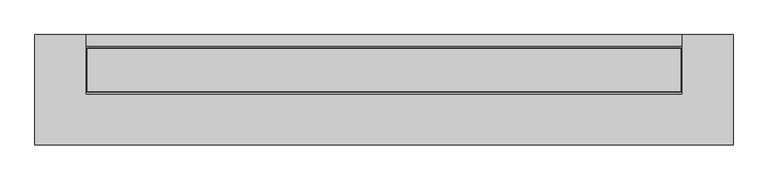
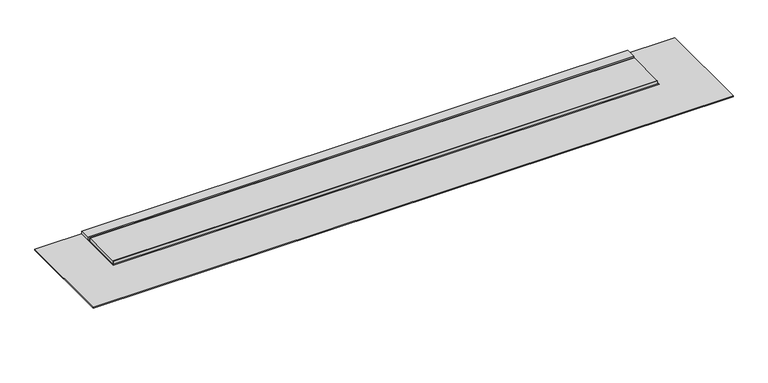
"""IFC4 building model written with IfcOpenShell, lengths in millimetres: sanitary terminal geometry, NLRS_PF_52_UN_Multi TAF Wall in_uitloop_Easydrain : Multi TAF Wall onderuitloop 50mm, zij-ingang 40mm."""

from ifc_helpers import new_model, si_unit, frame, origin, place, context, project, spatial, polyline, circle_curve, outline, extrude, faceted_brep, source, transform, mapped, element, save
from ifc_brep_helpers import plane_surface, cylinder_surface, revolved_surface, advanced_brep


def sanitary_terminal_4a5be464(model_context):
    return source(origin(), model_context, "Body", "SolidModel", [
        advanced_brep(
        [(895.5, 0.0, -67.0), (889.5, 0.0, -67.0), (892.5, 0.0, -67.0), (895.5, 0.0, -89.5), (889.5, 0.0, -89.5), (907.5, 0.0, -97.0), (877.5, 0.0, -97.0), (892.5, 0.0, -97.0)],
        [
            (0, 1, circle_curve(frame((892.5, 0.0, -67.0), z_axis=(0.0, 0.0, 1.0), x_axis=(-1.0, 0.0, 0.0)), 3.0)),
            (1, 2),
            (2, 0),
            (1, 0, circle_curve(frame((892.5, 0.0, -67.0), z_axis=(0.0, 0.0, 1.0), x_axis=(-1.0, 0.0, 0.0)), 3.0)),
            (3, 4, circle_curve(frame((892.5, 0.0, -89.5), z_axis=(0.0, 0.0, 1.0), x_axis=(-1.0, 0.0, 0.0)), 3.0)),
            (4, 1),
            (0, 3),
            (4, 3, circle_curve(frame((892.5, 0.0, -89.5), z_axis=(0.0, 0.0, 1.0), x_axis=(-1.0, 0.0, 0.0)), 3.0)),
            (5, 6, circle_curve(frame((892.5, 0.0, -97.0), z_axis=(0.0, 0.0, 1.0), x_axis=(-1.0, 0.0, 0.0)), 15.0)),
            (6, 4),
            (3, 5),
            (6, 5, circle_curve(frame((892.5, 0.0, -97.0), z_axis=(0.0, 0.0, 1.0), x_axis=(-1.0, 0.0, 0.0)), 15.0)),
            (7, 6),
            (5, 7),
        ],
        [
            plane_surface(frame((892.5, 0.0, -67.0), z_axis=(0.0, 0.0, 1.0), x_axis=(-1.0, 0.0, 0.0))),
            cylinder_surface(frame((892.5, 0.0, -105.1782032), z_axis=(0.0, 0.0, -1.0), x_axis=(-1.0, 0.0, 0.0)), 3.0),
            revolved_surface(polyline([(889.5, 0.0, -89.5), (877.5, 0.0, -97.0)]), (892.5, 0.0, -105.1782032), (0.0, 0.0, -1.0)),
            plane_surface(frame((892.5, 0.0, -97.0), z_axis=(0.0, 0.0, -1.0), x_axis=(-1.0, 0.0, 0.0))),
        ],
        [
            (0, [[1, 2, 3]]),
            (0, [[4, -3, -2]]),
            (1, [[5, 6, -1, 7]]),
            (1, [[8, -7, -4, -6]]),
            (2, [[9, 10, -5, 11]]),
            (2, [[12, -11, -8, -10]]),
            (3, [[13, -9, 14]]),
            (3, [[-14, -12, -13]]),
        ],
    ),
        faceted_brep([(882.5, 10.0, -67.0), (902.5, 10.0, -67.0), (902.5, -10.0, -67.0), (882.5, -10.0, -67.0), (877.5, 15.0, -27.0), (877.5, -15.0, -27.0), (907.5, -15.0, -27.0), (907.5, 15.0, -27.0)], [[[0, 1, 2, 3]], [[4, 5, 6, 7]], [[5, 4, 0, 3]], [[6, 5, 3, 2]], [[7, 6, 2, 1]], [[4, 7, 1, 0]]]),
        advanced_brep(
        [(-189.5, 0.0, -67.0), (-195.5, 0.0, -67.0), (-192.5, 0.0, -67.0), (-189.5, 0.0, -89.5), (-195.5, 0.0, -89.5), (-177.5, 0.0, -97.0), (-207.5, 0.0, -97.0), (-192.5, 0.0, -97.0)],
        [
            (0, 1, circle_curve(frame((-192.5, 0.0, -67.0), z_axis=(0.0, 0.0, 1.0), x_axis=(-1.0, 0.0, 0.0)), 3.0)),
            (1, 2),
            (2, 0),
            (1, 0, circle_curve(frame((-192.5, 0.0, -67.0), z_axis=(0.0, 0.0, 1.0), x_axis=(-1.0, 0.0, 0.0)), 3.0)),
            (3, 4, circle_curve(frame((-192.5, 0.0, -89.5), z_axis=(0.0, 0.0, 1.0), x_axis=(-1.0, 0.0, 0.0)), 3.0)),
            (4, 1),
            (0, 3),
            (4, 3, circle_curve(frame((-192.5, 0.0, -89.5), z_axis=(0.0, 0.0, 1.0), x_axis=(-1.0, 0.0, 0.0)), 3.0)),
            (5, 6, circle_curve(frame((-192.5, 0.0, -97.0), z_axis=(0.0, 0.0, 1.0), x_axis=(-1.0, 0.0, 0.0)), 15.0)),
            (6, 4),
            (3, 5),
            (6, 5, circle_curve(frame((-192.5, 0.0, -97.0), z_axis=(0.0, 0.0, 1.0), x_axis=(-1.0, 0.0, 0.0)), 15.0)),
            (7, 6),
            (5, 7),
        ],
        [
            plane_surface(frame((-192.5, 0.0, -67.0), z_axis=(0.0, 0.0, 1.0), x_axis=(-1.0, 0.0, 0.0))),
            cylinder_surface(frame((-192.5, 0.0, -105.1782032), z_axis=(0.0, 0.0, -1.0), x_axis=(-1.0, 0.0, 0.0)), 3.0),
            revolved_surface(polyline([(-195.5, 0.0, -89.5), (-207.5, 0.0, -97.0)]), (-192.5, 0.0, -105.1782032), (0.0, 0.0, -1.0)),
            plane_surface(frame((-192.5, 0.0, -97.0), z_axis=(0.0, 0.0, -1.0), x_axis=(-1.0, 0.0, 0.0))),
        ],
        [
            (0, [[1, 2, 3]]),
            (0, [[4, -3, -2]]),
            (1, [[5, 6, -1, 7]]),
            (1, [[8, -7, -4, -6]]),
            (2, [[9, 10, -5, 11]]),
            (2, [[12, -11, -8, -10]]),
            (3, [[13, -9, 14]]),
            (3, [[-14, -12, -13]]),
        ],
    ),
        faceted_brep([(-202.5, 10.0, -67.0), (-182.5, 10.0, -67.0), (-182.5, -10.0, -67.0), (-202.5, -10.0, -67.0), (-207.5, 15.0, -27.0), (-207.5, -15.0, -27.0), (-177.5, -15.0, -27.0), (-177.5, 15.0, -27.0)], [[[0, 1, 2, 3]], [[4, 5, 6, 7]], [[5, 4, 0, 3]], [[6, 5, 3, 2]], [[7, 6, 2, 1]], [[4, 7, 1, 0]]]),
        extrude(outline(polyline([(930.5, 42.0), (930.5, -42.0), (-230.5, -42.0), (-230.5, 42.0), (930.5, 42.0)])), frame((0.0, 0.0, -7.0), z_axis=(0.0, 0.0, 1.0), x_axis=(1.0, 0.0, 0.0)), (0.0, 0.0, 1.0), 7.0),
        extrude(outline(polyline([(930.5, 43.0), (930.5, 42.0), (-230.5, 42.0), (-230.5, 43.0), (930.5, 43.0)])), frame((0.0, 0.0, -7.0), z_axis=(0.0, 0.0, 1.0), x_axis=(1.0, 0.0, 0.0)), (0.0, 0.0, 1.0), 7.0),
        extrude(outline(polyline([(930.5, -43.0), (-230.5, -43.0), (-230.5, -42.0), (930.5, -42.0), (930.5, -43.0)])), frame((0.0, 0.0, -7.0), z_axis=(0.0, 0.0, 1.0), x_axis=(1.0, 0.0, 0.0)), (0.0, 0.0, 1.0), 7.0),
        extrude(outline(polyline([(932.5, 69.0), (932.5, 47.0), (-232.5, 47.0), (-232.5, 69.0), (932.5, 69.0)])), frame((0.0, 0.0, -7.0), z_axis=(0.0, 0.0, 1.0), x_axis=(1.0, 0.0, 0.0)), (0.0, 0.0, 1.0), 7.0),
        extrude(outline(polyline([(1032.5, 69.0), (1032.5, -147.0), (-332.5, -147.0), (-332.5, 69.0), (1032.5, 69.0)]), holes=[polyline([(932.5, 47.0), (-232.5, 47.0), (-232.5, -47.0), (932.5, -47.0), (932.5, 47.0)])]), frame((0.0, 0.0, -8.0), z_axis=(0.0, 0.0, 1.0), x_axis=(1.0, 0.0, 0.0)), (0.0, 0.0, 1.0), 2.0),
        faceted_brep([(932.5, 47.0, -27.0), (-232.5, 47.0, -27.0), (-232.5, 47.0, -9.0), (932.5, 47.0, -9.0), (-232.5, -47.0, -27.0), (932.5, -47.0, -27.0), (932.5, -47.0, -9.0), (-232.5, -47.0, -9.0), (950.0, 64.5, -7.0), (-250.0, 64.5, -7.0), (-250.0, -81.5, -7.0), (950.0, -81.5, -7.0), (950.0, 64.5, -9.0), (950.0, -81.5, -9.0), (-250.0, -81.5, -9.0), (-250.0, 64.5, -9.0)], [[[0, 1, 2, 3]], [[4, 5, 6, 7]], [[1, 0, 5, 4]], [[5, 0, 3, 6]], [[8, 9, 10, 11]], [[1, 4, 7, 2]], [[12, 13, 14, 15], [3, 2, 7, 6]], [[9, 8, 12, 15]], [[10, 9, 15, 14]], [[11, 10, 14, 13]], [[8, 11, 13, 12]]]),
    ])


if __name__ == "__main__":
    model = new_model("IFC4")
    model_context = context("Model", 3, world=origin())
    ifc_project = project(units=[si_unit("LENGTHUNIT", "METRE", prefix="MILLI")], contexts=[model_context])
    site = spatial("IfcSite", under=ifc_project)
    building = spatial("IfcBuilding", under=site)
    placement = place(None, origin())
    sanitary_terminal_shape = sanitary_terminal_4a5be464(model_context)
    element("IfcSanitaryTerminal", 1, ObjectType="NLRS_PF_52_UN_Multi TAF Wall in_uitloop_Easydrain : Multi TAF Wall onderuitloop 50mm, zij-ingang 40mm", at=placement, inside=building, context=model_context, shape_type="MappedRepresentation", body=[
        mapped(sanitary_terminal_shape, transform((0.0, 0.0, 0.0), x_axis=(1.0, 0.0, 0.0), y_axis=(0.0, 1.0, 0.0), z_axis=(0.0, 0.0, 1.0))),
    ])
    save(model, "model.ifc")
